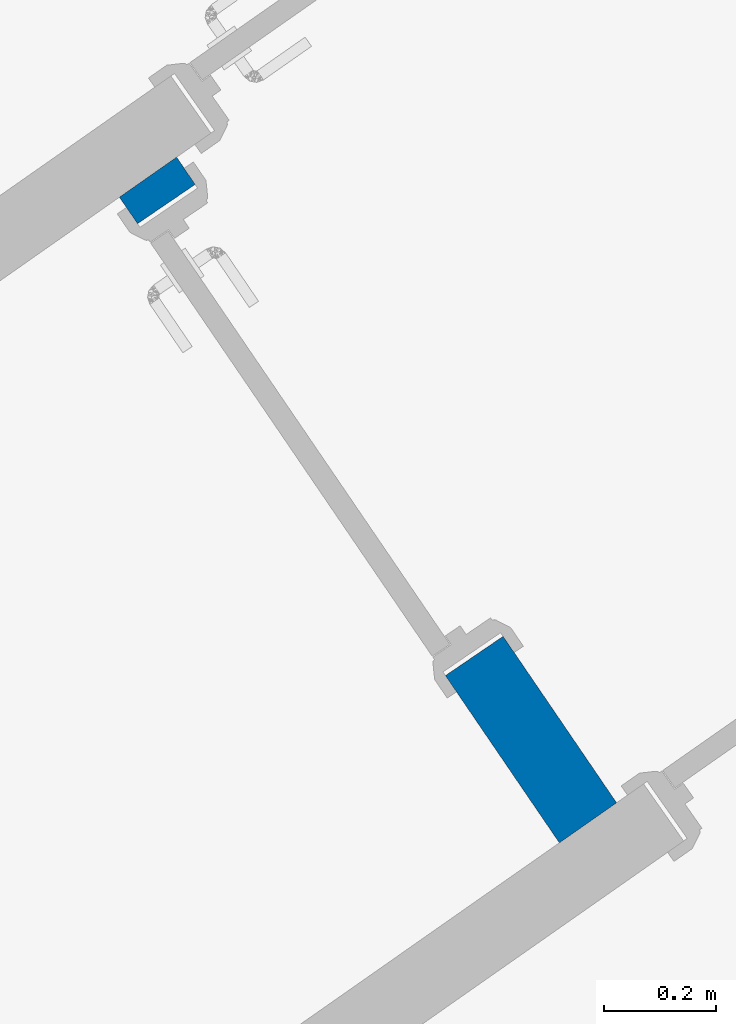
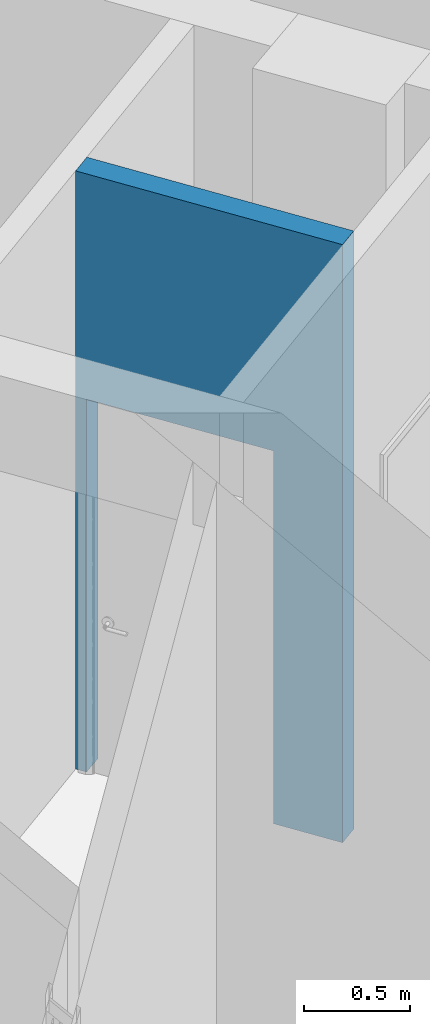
# One storey, part 69 of 112: 1 wall, 1 opening.
"""IFC2X3 building model written with IfcOpenShell, lengths in millimetres."""

from ifc_helpers import new_model, entity, si_unit, converted_unit, derived_unit, direction, frame, frame_2d, origin, place, context, subcontext, project, spatial, polyline, rectangle, outline, extrude, material, layer, layer_set, layer_usage, type_object, element, save


model = new_model("IFC2X3")

# Units and contexts
model_context = context("Model", 3, precision=0.01, world=origin(), true_north=direction((6.123031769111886e-17, 1.0)))
body_context = subcontext(model_context, "Body", "Model", "MODEL_VIEW")
ifc_project = project(units=[si_unit("LENGTHUNIT", "METRE", prefix="MILLI"), si_unit("AREAUNIT", "SQUARE_METRE"), si_unit("VOLUMEUNIT", "CUBIC_METRE"), converted_unit("PLANEANGLEUNIT", "DEGREE", entity("IfcRatioMeasure", 0.017453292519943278), si_unit("PLANEANGLEUNIT", "RADIAN"), dimensions=[0, 0, 0, 0, 0, 0, 0]), si_unit("MASSUNIT", "GRAM", prefix="KILO"), derived_unit("MASSDENSITYUNIT", [(si_unit("MASSUNIT", "GRAM", prefix="KILO"), 1), (si_unit("LENGTHUNIT", "METRE"), -3)]), derived_unit("MOMENTOFINERTIAUNIT", [(si_unit("LENGTHUNIT", "METRE"), 4)]), si_unit("TIMEUNIT", "SECOND"), si_unit("FREQUENCYUNIT", "HERTZ"), si_unit("THERMODYNAMICTEMPERATUREUNIT", "DEGREE_CELSIUS"), derived_unit("THERMALTRANSMITTANCEUNIT", [(si_unit("MASSUNIT", "GRAM", prefix="KILO"), 1), (si_unit("THERMODYNAMICTEMPERATUREUNIT", "KELVIN"), -1), (si_unit("TIMEUNIT", "SECOND"), -3)]), derived_unit("THERMALCONDUCTANCEUNIT", [(si_unit("MASSUNIT", "GRAM", prefix="KILO"), 1), (si_unit("LENGTHUNIT", "METRE"), 1), (si_unit("THERMODYNAMICTEMPERATUREUNIT", "KELVIN"), -1), (si_unit("TIMEUNIT", "SECOND"), -3)]), derived_unit("VOLUMETRICFLOWRATEUNIT", [(si_unit("LENGTHUNIT", "METRE"), 3), (si_unit("TIMEUNIT", "SECOND"), -1)]), derived_unit("MASSFLOWRATEUNIT", [(si_unit("MASSUNIT", "GRAM", prefix="KILO"), 1), (si_unit("TIMEUNIT", "SECOND"), -1)]), derived_unit("ROTATIONALFREQUENCYUNIT", [(si_unit("TIMEUNIT", "SECOND"), -1)]), si_unit("ELECTRICCURRENTUNIT", "AMPERE"), si_unit("ELECTRICVOLTAGEUNIT", "VOLT"), si_unit("POWERUNIT", "WATT"), converted_unit("FORCEUNIT", "KIP", entity("IfcRatioMeasure", 2.088543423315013e-05), si_unit("FORCEUNIT", "NEWTON"), dimensions=[1, 1, -2, 0, 0, 0, 0]), si_unit("ILLUMINANCEUNIT", "LUX"), si_unit("LUMINOUSFLUXUNIT", "LUMEN"), si_unit("LUMINOUSINTENSITYUNIT", "CANDELA"), derived_unit("USERDEFINED", [(si_unit("MASSUNIT", "GRAM", prefix="KILO"), -1), (si_unit("LENGTHUNIT", "METRE"), -2), (si_unit("TIMEUNIT", "SECOND"), 3), (si_unit("LUMINOUSFLUXUNIT", "LUMEN"), 1)]), derived_unit("USERDEFINED", [(si_unit("MASSUNIT", "GRAM", prefix="KILO"), 1), (si_unit("LENGTHUNIT", "METRE"), 3), (si_unit("TIMEUNIT", "SECOND"), -3), (si_unit("ELECTRICCURRENTUNIT", "AMPERE"), -2)]), derived_unit("USERDEFINED", [(si_unit("LENGTHUNIT", "METRE"), 2), (si_unit("TIMEUNIT", "SECOND"), -2)]), derived_unit("SOUNDPOWERUNIT", [(si_unit("MASSUNIT", "GRAM", prefix="KILO"), 1), (si_unit("LENGTHUNIT", "METRE"), 2), (si_unit("TIMEUNIT", "SECOND"), -3)]), derived_unit("SOUNDPRESSUREUNIT", [(si_unit("MASSUNIT", "GRAM", prefix="KILO"), 1), (si_unit("LENGTHUNIT", "METRE"), -1), (si_unit("TIMEUNIT", "SECOND"), -2)]), derived_unit("LINEARVELOCITYUNIT", [(si_unit("LENGTHUNIT", "METRE"), 1), (si_unit("TIMEUNIT", "SECOND"), -1)]), si_unit("PRESSUREUNIT", "PASCAL"), derived_unit("USERDEFINED", [(si_unit("LENGTHUNIT", "METRE"), -2), (si_unit("MASSUNIT", "GRAM", prefix="KILO"), 1), (si_unit("TIMEUNIT", "SECOND"), -2)]), derived_unit("LINEARFORCEUNIT", [(si_unit("MASSUNIT", "GRAM", prefix="KILO"), 1), (si_unit("LENGTHUNIT", "METRE"), 1), (si_unit("TIMEUNIT", "SECOND"), -2), (si_unit("LENGTHUNIT", "METRE"), -1)]), derived_unit("PLANARFORCEUNIT", [(si_unit("MASSUNIT", "GRAM", prefix="KILO"), 1), (si_unit("LENGTHUNIT", "METRE"), 1), (si_unit("TIMEUNIT", "SECOND"), -2), (si_unit("LENGTHUNIT", "METRE"), -2)]), derived_unit("SPECIFICHEATCAPACITYUNIT", [(si_unit("LENGTHUNIT", "METRE"), 2), (si_unit("TIMEUNIT", "SECOND"), -2), (si_unit("THERMODYNAMICTEMPERATUREUNIT", "KELVIN"), -1)]), derived_unit("VAPORPERMEABILITYUNIT", [(si_unit("TIMEUNIT", "SECOND"), 1), (si_unit("LENGTHUNIT", "METRE"), -1)]), derived_unit("DYNAMICVISCOSITYUNIT", [(si_unit("MASSUNIT", "GRAM", prefix="KILO"), 1), (si_unit("LENGTHUNIT", "METRE"), -1), (si_unit("TIMEUNIT", "SECOND"), -1)]), derived_unit("THERMALEXPANSIONCOEFFICIENTUNIT", [(si_unit("THERMODYNAMICTEMPERATUREUNIT", "KELVIN"), -1)])], contexts=[model_context])

# Site, building, storey
site_placement = place(None, frame((0.0, 0.0, 0.0), z_axis=(0.0, 0.0, 1.0), x_axis=(0.8191520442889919, 0.5735764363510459, 0.0)))
site = spatial("IfcSite", under=ifc_project, at=site_placement, Name="Default", CompositionType="ELEMENT")
building_placement = place(site_placement, origin())
building = spatial("IfcBuilding", under=site, at=building_placement, CompositionType="ELEMENT")
storey_placement = place(building_placement, frame((0.0, 0.0, -3600.0)))
storey = spatial("IfcBuildingStorey", under=building, at=storey_placement, Name="0.UG -3.60", CompositionType="ELEMENT", Elevation=-3600.0000000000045)

# Wall, opening
ifc_material = material(Name="Analytical Wall Surface_CJC")
ifc_layer = layer(ifc_material, 125.00000000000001)
ifc_layer_set = layer_set([ifc_layer], Name="Basic Wall:Wand_Innen_12.5")
ifc_layer_usage = layer_usage(ifc_layer_set, "AXIS2", "NEGATIVE", 62.50000000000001)
wall_type = type_object("IfcWallType", Name="Basic Wall:Wand_Innen_12.5", PredefinedType="STANDARD", material=ifc_layer_set)
wall_placement = place(storey_placement, frame((-211696.98123741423, 167770.56331512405, 0.0), z_axis=(0.0, 0.0, 1.0), x_axis=(0.012729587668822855, 0.9999189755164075, 0.0)))
wall = element("IfcWallStandardCase", 1, at=wall_placement, inside=storey, type_object=wall_type, material=ifc_layer_usage, Name="Basic Wall:Wand_Innen_12.5", ObjectType="Basic Wall:Wand_Innen_12.5", context=body_context, shape_type="SweptSolid", body=[
    extrude(outline(polyline([(1.5913273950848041, -62.499999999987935), (1401.704770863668, -62.499999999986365), (1400.1134434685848, 62.500000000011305), (0.0, 62.50000000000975), (1.5913273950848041, -62.499999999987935)])), origin(), (0.0, 0.0, 1.0), 3450.0),
])
opening_placement = place(wall_placement, frame((362.6034267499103, -62.50000000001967, 0.0)))
element("IfcOpeningElement", 2, at=opening_placement, cuts=wall, Name="Doors_IntSgl:90x210:1", ObjectType="Opening", context=body_context, shape_type="SweptSolid", body=[
    extrude(rectangle(XDim=2150.000000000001, YDim=979.9999999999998, at=frame_2d((1075.0000000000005, 490.0000000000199), x_axis=(1.0, 0.0))), frame((0.0, 0.0, 0.0), z_axis=(0.0, 1.0, 0.0), x_axis=(0.0, 0.0, 1.0)), (0.0, 0.0, 1.0), 124.99999999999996),
])

save(model, "model.ifc")
